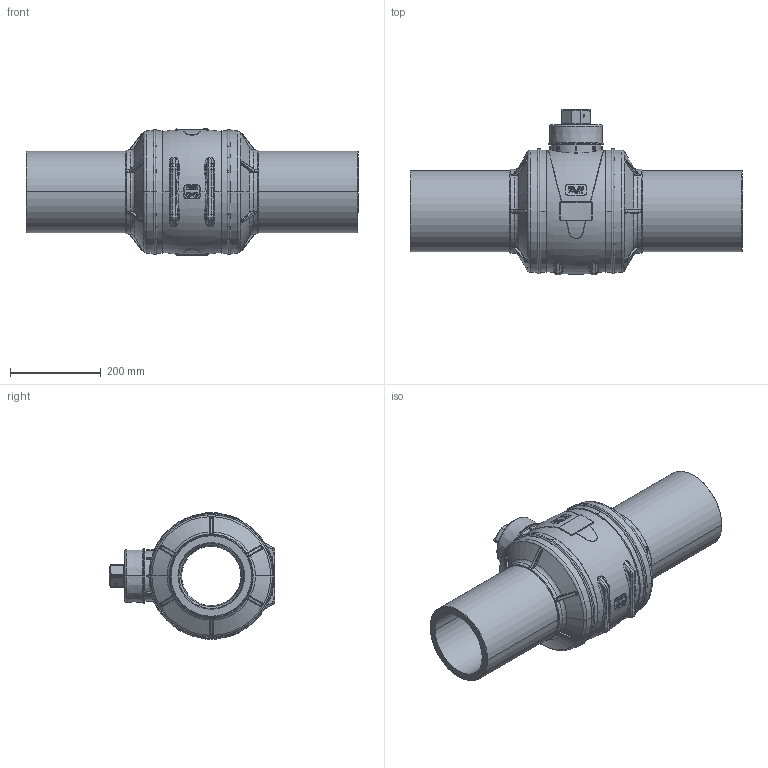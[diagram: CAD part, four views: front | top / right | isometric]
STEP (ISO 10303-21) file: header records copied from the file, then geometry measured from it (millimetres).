
FILE_DESCRIPTION (( 'STEP AP203' ), '1' );
FILE_NAME ('29-3-2019 SolidValve PE BALL VALVE UNI DN150-OD180.STEP', '2019-03-29T07:57:51', ( 'Beheer' ), ( '' ), 'SwSTEP 2.0', 'SolidWorks 2012', '' );
FILE_SCHEMA (( 'CONFIG_CONTROL_DESIGN' ));
Length unit declared in the file: millimetre
Products named in the file (1): 29-3-2019 SolidValve PE BALL VALVE UNI DN150-OD180
Bounding box: 733.67 x 366.25 x 279.87 mm (x, y, z)
Volume: 15624121.7 mm3; surface area: 917225.5 mm2
Topology: 1 solids, 1 shells, 2200 faces, 5339 edges, 3086 vertices
Faces by surface type: bspline 730, cylinder 522, plane 475, torus 319, sphere 112, cone 42
Entity records: 92310 total; most frequent: CARTESIAN_POINT 46045, ORIENTED_EDGE 10422, DIRECTION 8648, EDGE_CURVE 5211, AXIS2_PLACEMENT_3D 3440, VERTEX_POINT 3086, EDGE_LOOP 2279, FACE_OUTER_BOUND 2200
